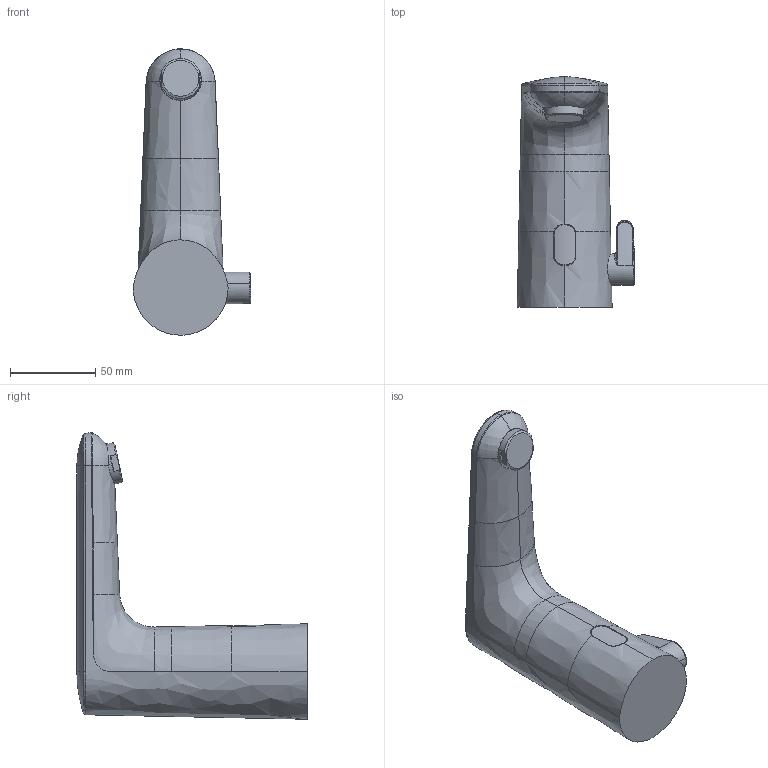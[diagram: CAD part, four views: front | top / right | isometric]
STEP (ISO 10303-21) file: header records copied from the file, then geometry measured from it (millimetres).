
FILE_DESCRIPTION (( 'STEP AP203' ), '1' );
FILE_NAME ('9110FZ-33(2023)+9110200933(2023)+9110221933(2023).STEP', '2023-04-28T11:04:44', ( '' ), ( '' ), 'SwSTEP 2.0', 'SolidWorks 2016', '' );
FILE_SCHEMA (( 'CONFIG_CONTROL_DESIGN' ));
Length unit declared in the file: millimetre
Products named in the file (1): 9110FZ-33(2023)+9110200933(2023)+9110221933(2023)
Bounding box: 68.92 x 135 x 167.92 mm (x, y, z)
Volume: 395835.9 mm3; surface area: 40089.1 mm2
Topology: 1 solids, 1 shells, 102 faces, 251 edges, 151 vertices
Faces by surface type: bspline 72, plane 17, cylinder 11, cone 2
Entity records: 24089 total; most frequent: CARTESIAN_POINT 22265, ORIENTED_EDGE 498, EDGE_CURVE 249, B_SPLINE_CURVE_WITH_KNOTS 179, VERTEX_POINT 151, DIRECTION 140, EDGE_LOOP 104, ADVANCED_FACE 102
